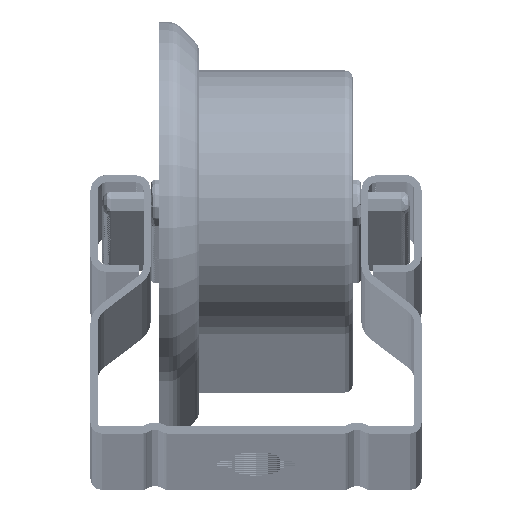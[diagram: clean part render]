
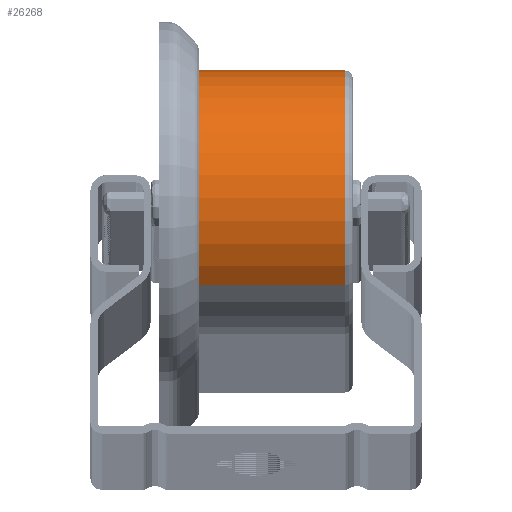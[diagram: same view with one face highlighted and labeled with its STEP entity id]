
A CAD part, top view. The second image highlights one B-rep face of the part: STEP entity #26268.
In plain terms, the highlighted cylindrical face has radius 16.5 mm (diameter 33 mm), a partial arc.
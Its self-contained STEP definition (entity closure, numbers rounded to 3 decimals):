
#2203 = FACE_OUTER_BOUND ( 'NONE', #117484, .T. ) ;
#5325 = CARTESIAN_POINT ( 'NONE',  ( 0., 0., 19. ) ) ;
#6632 = VERTEX_POINT ( 'NONE', #58425 ) ;
#12916 = CIRCLE ( 'NONE', #70727, 16.5 ) ;
#15359 = EDGE_CURVE ( 'NONE', #108295, #36747, #12916, .T. ) ;
#20256 = DIRECTION ( 'NONE',  ( 0., 0., -1. ) ) ;
#21156 = CARTESIAN_POINT ( 'NONE',  ( 0., 0., 24. ) ) ;
#26268 = ADVANCED_FACE ( 'NONE', ( #2203 ), #101742, .T. ) ;
#27355 = DIRECTION ( 'NONE',  ( 0., 0., 1. ) ) ;
#29977 = VERTEX_POINT ( 'NONE', #58271 ) ;
#33756 = CARTESIAN_POINT ( 'NONE',  ( 16.5, 0., 19. ) ) ;
#35485 = ORIENTED_EDGE ( 'NONE', *, *, #96454, .F. ) ;
#35686 = CARTESIAN_POINT ( 'NONE',  ( -16.5, 0., 19. ) ) ;
#36295 = DIRECTION ( 'NONE',  ( 0., 0., -1. ) ) ;
#36747 = VERTEX_POINT ( 'NONE', #35686 ) ;
#37833 = CARTESIAN_POINT ( 'NONE',  ( 0., 0., 1. ) ) ;
#44559 = EDGE_CURVE ( 'NONE', #29977, #6632, #54494, .T. ) ;
#54494 = CIRCLE ( 'NONE', #95375, 16.5 ) ;
#56289 = VECTOR ( 'NONE', #20256, 1000. ) ;
#56936 = DIRECTION ( 'NONE',  ( 1., 0., 0. ) ) ;
#57588 = VECTOR ( 'NONE', #36295, 1000. ) ;
#58271 = CARTESIAN_POINT ( 'NONE',  ( 16.5, 0., 1. ) ) ;
#58425 = CARTESIAN_POINT ( 'NONE',  ( -16.5, 0., 1. ) ) ;
#70166 = DIRECTION ( 'NONE',  ( -1., 0., 0. ) ) ;
#70727 = AXIS2_PLACEMENT_3D ( 'NONE', #5325, #82190, #80958 ) ;
#75235 = CARTESIAN_POINT ( 'NONE',  ( -16.5, 0., 24. ) ) ;
#77769 = ORIENTED_EDGE ( 'NONE', *, *, #95400, .T. ) ;
#80958 = DIRECTION ( 'NONE',  ( 1., 0., 0. ) ) ;
#82190 = DIRECTION ( 'NONE',  ( 0., 0., 1. ) ) ;
#83276 = LINE ( 'NONE', #75235, #57588 ) ;
#95375 = AXIS2_PLACEMENT_3D ( 'NONE', #37833, #27355, #56936 ) ;
#95400 = EDGE_CURVE ( 'NONE', #108295, #29977, #116871, .T. ) ;
#96454 = EDGE_CURVE ( 'NONE', #36747, #6632, #83276, .T. ) ;
#97152 = ORIENTED_EDGE ( 'NONE', *, *, #44559, .T. ) ;
#97537 = CARTESIAN_POINT ( 'NONE',  ( 16.5, 0., 24. ) ) ;
#101742 = CYLINDRICAL_SURFACE ( 'NONE', #102281, 16.5 ) ;
#102281 = AXIS2_PLACEMENT_3D ( 'NONE', #21156, #108576, #70166 ) ;
#108295 = VERTEX_POINT ( 'NONE', #33756 ) ;
#108576 = DIRECTION ( 'NONE',  ( 0., 0., -1. ) ) ;
#116871 = LINE ( 'NONE', #97537, #56289 ) ;
#117484 = EDGE_LOOP ( 'NONE', ( #119454, #77769, #97152, #35485 ) ) ;
#119454 = ORIENTED_EDGE ( 'NONE', *, *, #15359, .F. ) ;
